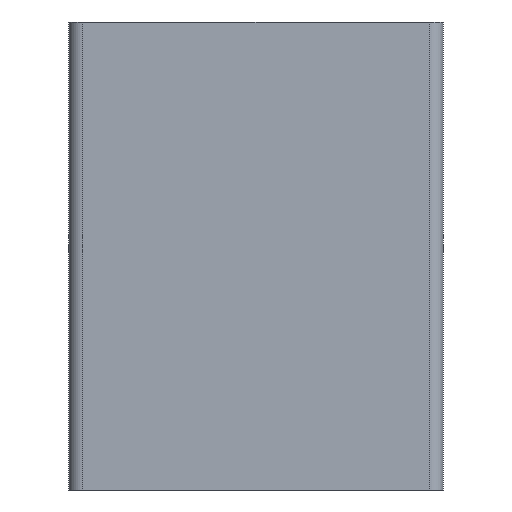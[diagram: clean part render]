
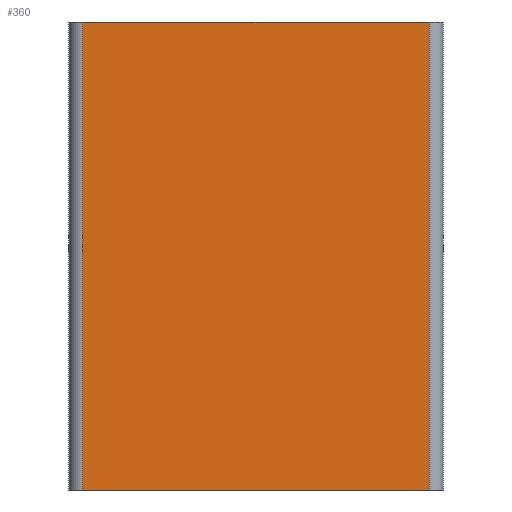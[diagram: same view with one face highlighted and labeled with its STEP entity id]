
A CAD part, left-side view. The second image highlights one B-rep face of the part: STEP entity #360.
In plain terms, the highlighted planar face has unit normal (-1, 0, 0).
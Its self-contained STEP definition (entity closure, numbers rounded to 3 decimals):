
#360=ADVANCED_FACE('',(#729),#730,.F.);
#729=FACE_OUTER_BOUND('',#1098,.T.);
#730=PLANE('',#1099);
#1098=EDGE_LOOP('',(#2221,#2222,#2223,#2224));
#1099=AXIS2_PLACEMENT_3D('',#2225,#2226,#2227);
#2221=ORIENTED_EDGE('',*,*,#2733,.T.);
#2222=ORIENTED_EDGE('',*,*,#2743,.F.);
#2223=ORIENTED_EDGE('',*,*,#2525,.F.);
#2224=ORIENTED_EDGE('',*,*,#2312,.T.);
#2225=CARTESIAN_POINT('',(0.,38.5,50.0));
#2226=DIRECTION('',(1.0,0.0,-0.0));
#2227=DIRECTION('',(0.0,0.0,1.0));
#2312=EDGE_CURVE('',#2794,#2792,#2795,.T.);
#2525=EDGE_CURVE('',#2794,#3158,#3159,.T.);
#2733=EDGE_CURVE('',#2792,#3427,#3429,.T.);
#2743=EDGE_CURVE('',#3158,#3427,#3439,.T.);
#2792=VERTEX_POINT('',#3502);
#2794=VERTEX_POINT('',#3504);
#2795=LINE('',#3505,#3506);
#3158=VERTEX_POINT('',#3982);
#3159=LINE('',#3983,#3984);
#3427=VERTEX_POINT('',#4343);
#3429=LINE('',#4345,#4346);
#3439=LINE('',#4360,#4361);
#3502=CARTESIAN_POINT('',(0.,38.5,0.0));
#3504=CARTESIAN_POINT('',(0.,38.5,50.0));
#3505=CARTESIAN_POINT('',(0.,38.5,50.0));
#3506=VECTOR('',#4395,1.0);
#3982=CARTESIAN_POINT('',(0.,1.5,50.0));
#3983=CARTESIAN_POINT('',(0.,38.5,50.0));
#3984=VECTOR('',#4707,1.0);
#4343=CARTESIAN_POINT('',(0.,1.5,0.0));
#4345=CARTESIAN_POINT('',(0.,38.5,0.0));
#4346=VECTOR('',#4949,1.0);
#4360=CARTESIAN_POINT('',(0.,1.5,50.0));
#4361=VECTOR('',#4957,1.0);
#4395=DIRECTION('',(0.0,0.0,-1.0));
#4707=DIRECTION('',(0.0,-1.0,0.0));
#4949=DIRECTION('',(0.0,-1.0,0.0));
#4957=DIRECTION('',(0.0,0.0,-1.0));
